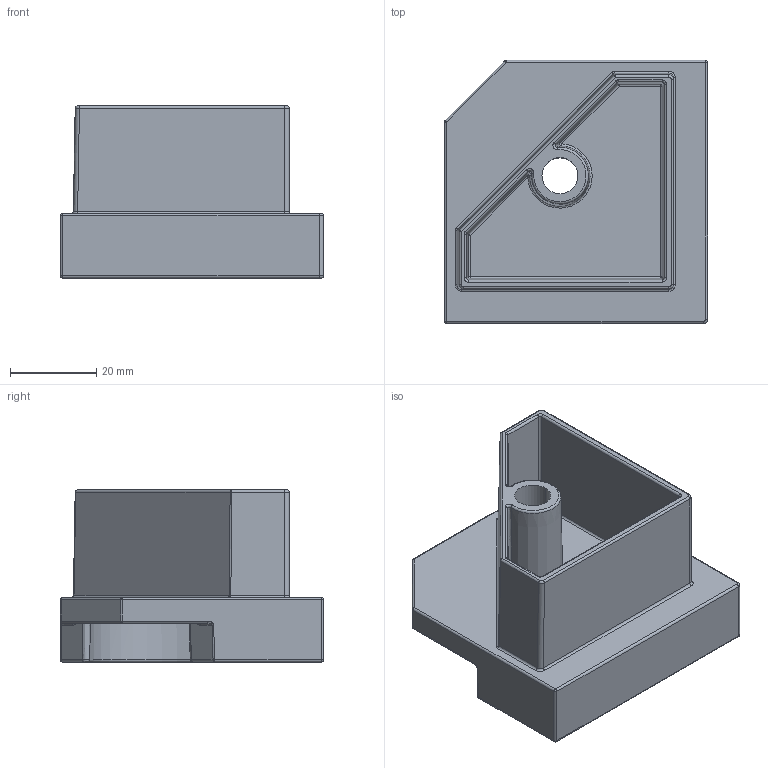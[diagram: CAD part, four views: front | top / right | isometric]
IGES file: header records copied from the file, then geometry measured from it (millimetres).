
Global section: file name: No Iges File Name specified; native system: Autodesk Inventor 2010; preprocessor: AutoDesk Inventor Iges Exporter R2010; author: Administrator; date: 20110405.135111; units: millimetre
Bounding box: 61.2 x 61.2 x 40 mm (x, y, z)
Volume: 32540 mm3; surface area: 24252 mm2
Topology: 1 solids, 1 shells, 257 faces, 583 edges, 295 vertices
Faces by surface type: bspline 86, cylinder 54, revolution 49, plane 43, sphere 12, torus 9, cone 4
